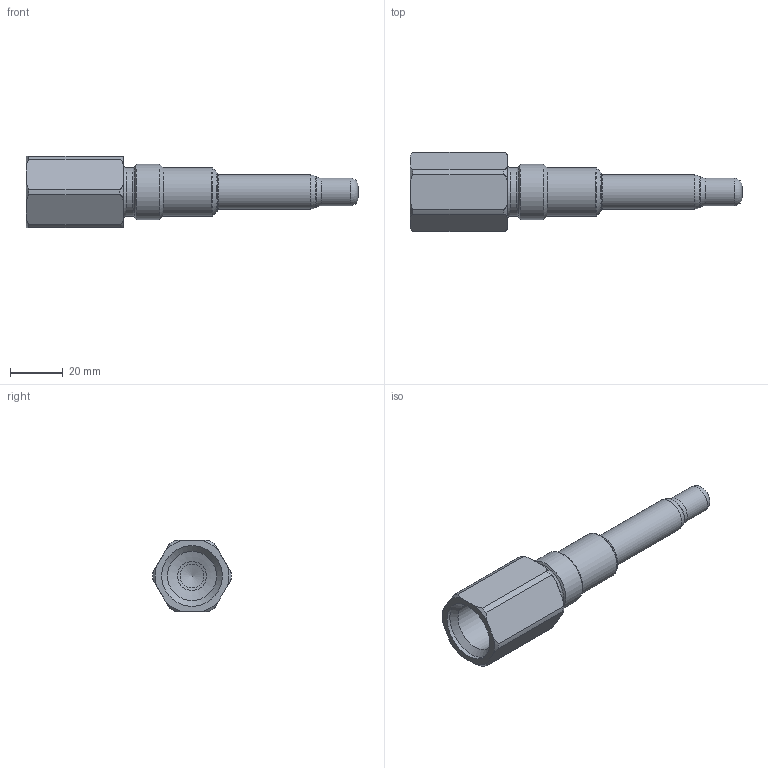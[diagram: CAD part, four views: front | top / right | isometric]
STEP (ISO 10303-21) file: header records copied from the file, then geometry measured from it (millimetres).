
FILE_DESCRIPTION(/* description */ ('STEP AP203'),/* implementation_level */ '2;1');
FILE_NAME(/* name */ 'E30393',/* time_stamp */ '2022-12-14T11:42:00+01:00',/* author */ ('License CC BY-ND 4.0'),/* organization */ ('CADENAS'),/* preprocessor_version */ 'ST-DEVELOPER v18.102',/* originating_system */ 'PARTsolutions',/* authorisation */ ' ');
FILE_SCHEMA (('CONFIG_CONTROL_DESIGN'));
Length unit declared in the file: millimetre
Products named in the file (1): E30393
Bounding box: 126 x 29.99 x 27 mm (x, y, z)
Volume: 21561.2 mm3; surface area: 13596.1 mm2
Topology: 1 solids, 1 shells, 53 faces, 120 edges, 71 vertices
Faces by surface type: cylinder 15, cone 14, torus 14, plane 10
Full cylindrical faces by diameter (mm): 9 x1, 10.5 x1, 11 x1, 13 x1, 18.3 x2, 18.631 x1, 20.955 x1, 23 x1
Entity records: 1448 total; most frequent: CARTESIAN_POINT 353, DIRECTION 228, ORIENTED_EDGE 186, AXIS2_PLACEMENT_3D 105, EDGE_CURVE 93, FACE_BOUND 81, EDGE_LOOP 80, VERTEX_POINT 70
